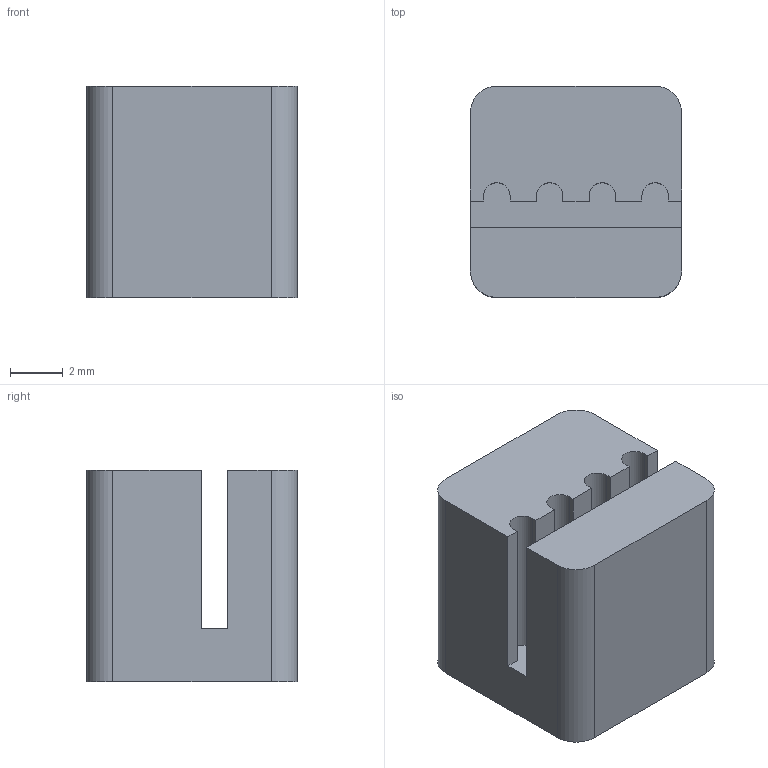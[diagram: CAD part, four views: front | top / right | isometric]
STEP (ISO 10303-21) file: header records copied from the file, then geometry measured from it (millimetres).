
FILE_DESCRIPTION(/* description */ (''),/* implementation_level */ '2;1');
FILE_NAME(/* name */ 'C:/Users/Ulises/Desktop/T1/mecanica_cad/fijador_correa.step',/* time_stamp */ '2020-10-16T01:33:13-03:00',/* author */ (''),/* organization */ (''),/* preprocessor_version */ 'ST-DEVELOPER v18.1',/* originating_system */ 'Autodesk Translation Framework v9.3.0.1241',/* authorisation */ '');
FILE_SCHEMA (('AUTOMOTIVE_DESIGN { 1 0 10303 214 3 1 1 }'));
Length unit declared in the file: millimetre
Products named in the file (1): fijador_correa
Bounding box: 8 x 8 x 8 mm (x, y, z)
Volume: 442.9 mm3; surface area: 475.8 mm2
Topology: 1 solids, 1 shells, 30 faces, 84 edges, 56 vertices
Faces by surface type: plane 22, cylinder 8
Entity records: 1004 total; most frequent: CARTESIAN_POINT 171, ORIENTED_EDGE 168, DIRECTION 162, EDGE_CURVE 84, LINE 68, VECTOR 68, VERTEX_POINT 56, AXIS2_PLACEMENT_3D 47
